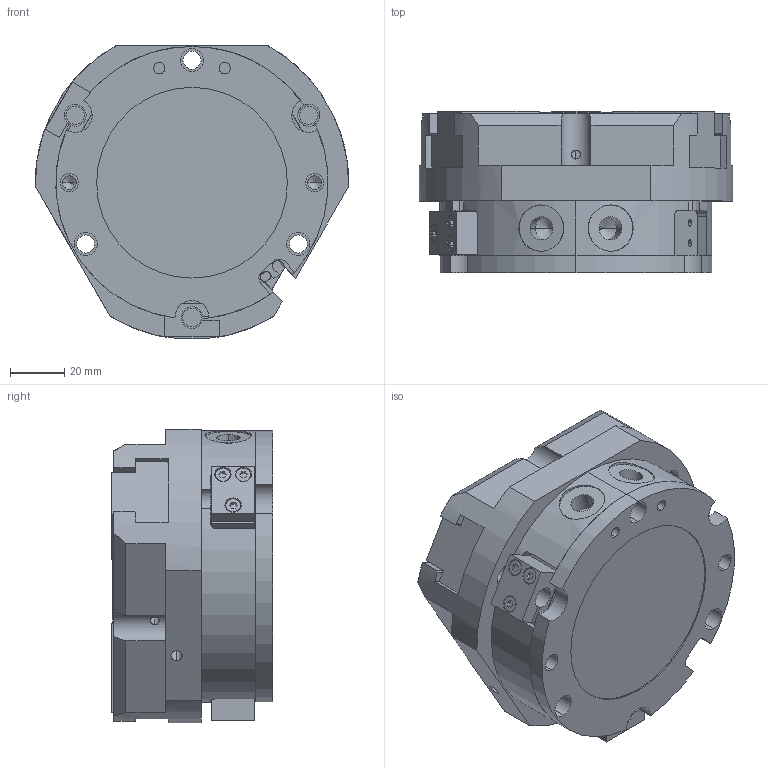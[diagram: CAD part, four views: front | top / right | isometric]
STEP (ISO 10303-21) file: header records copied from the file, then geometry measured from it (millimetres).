
FILE_DESCRIPTION (( 'STEP AP214' ), '1' );
FILE_NAME ('FCT 100A-1.STEP', '2021-09-17T06:22:16', ( 'DEEP' ), ( 'Microsoft' ), 'SwSTEP 2.0', 'SolidWorks 2016', '' );
FILE_SCHEMA (( 'AUTOMOTIVE_DESIGN' ));
Length unit declared in the file: millimetre
Products named in the file (16): FCT 100A-1-003; FCT 100A-1-002; FCT 100A-1-006; FCT 100A-1-001; FCT 100A-1-004; FCT 100A-1; FCT 100A-1-005
Assembly tree (9 placements, depth 2):
  FCT 100A-1-003
  FCT 100A-1-003
  FCT 100A-1-002
  FCT 100A-1-006
  FCT 100A-1-001
Bounding box: 114.96 x 59.3 x 107.82 mm (x, y, z)
Volume: 455954.5 mm3; surface area: 95170.2 mm2
Topology: 9 solids, 9 shells, 520 faces, 1339 edges, 850 vertices
Faces by surface type: plane 254, cylinder 194, cone 72
Entity records: 13427 total; most frequent: CARTESIAN_POINT 2827, DIRECTION 2161, ORIENTED_EDGE 2022, EDGE_CURVE 1011, AXIS2_PLACEMENT_3D 796, VERTEX_POINT 662, LINE 569, VECTOR 569
